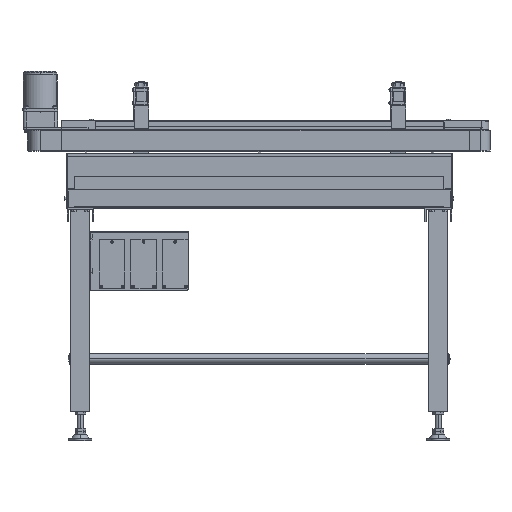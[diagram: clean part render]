
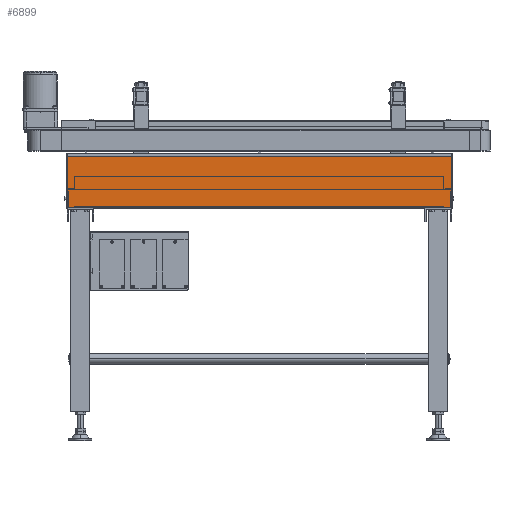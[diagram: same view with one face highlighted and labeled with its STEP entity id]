
A CAD part, top view. The second image highlights one B-rep face of the part: STEP entity #6899.
In plain terms, the highlighted planar face has unit normal (0, 0, 1).
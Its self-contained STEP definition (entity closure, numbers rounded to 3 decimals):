
#6899=ADVANCED_FACE('',(#41572),#41571,.F.);
#41571=PLANE('',#62465);
#41572=FACE_OUTER_BOUND('',#62466,.T.);
#62462=CARTESIAN_POINT('',(-10.,-150.,350.));
#62463=DIRECTION('',(0.,0.,-1.));
#62464=DIRECTION('',(0.,1.,0.));
#62465=AXIS2_PLACEMENT_3D('',#62462,#62463,#62464);
#62466=EDGE_LOOP('',(#79325,#79326,#79327,#79328));
#79325=ORIENTED_EDGE('',*,*,#87775,.F.);
#79326=ORIENTED_EDGE('',*,*,#87673,.T.);
#79327=ORIENTED_EDGE('',*,*,#87832,.T.);
#79328=ORIENTED_EDGE('',*,*,#87833,.F.);
#87673=EDGE_CURVE('',#142796,#142797,#142798,.T.);
#87775=EDGE_CURVE('',#142796,#143460,#143461,.T.);
#87832=EDGE_CURVE('',#142797,#143833,#143834,.T.);
#87833=EDGE_CURVE('',#143460,#143833,#143840,.T.);
#142796=VERTEX_POINT('',#177375);
#142797=VERTEX_POINT('',#177376);
#142798=LINE('',#177377,#177378);
#143460=VERTEX_POINT('',#177733);
#143461=LINE('',#177734,#177735);
#143833=VERTEX_POINT('',#177935);
#143834=LINE('',#177936,#177937);
#143840=LINE('',#177939,#177940);
#177375=CARTESIAN_POINT('',(1010.,-6.,350.));
#177376=CARTESIAN_POINT('',(0.,-6.,350.));
#177377=CARTESIAN_POINT('',(1010.,-6.,350.));
#177378=VECTOR('',#177379,1010.);
#177379=DIRECTION('',(-1.,0.,0.));
#177733=CARTESIAN_POINT('',(1010.,-140.,350.));
#177734=CARTESIAN_POINT('',(1010.,-6.,350.));
#177735=VECTOR('',#177736,134.);
#177736=DIRECTION('',(0.,-1.,0.));
#177935=CARTESIAN_POINT('',(0.,-140.,350.));
#177936=CARTESIAN_POINT('',(0.,-6.,350.));
#177937=VECTOR('',#177938,134.);
#177938=DIRECTION('',(0.,-1.,0.));
#177939=CARTESIAN_POINT('',(1010.,-140.,350.));
#177940=VECTOR('',#177941,1010.);
#177941=DIRECTION('',(-1.,0.,0.));
